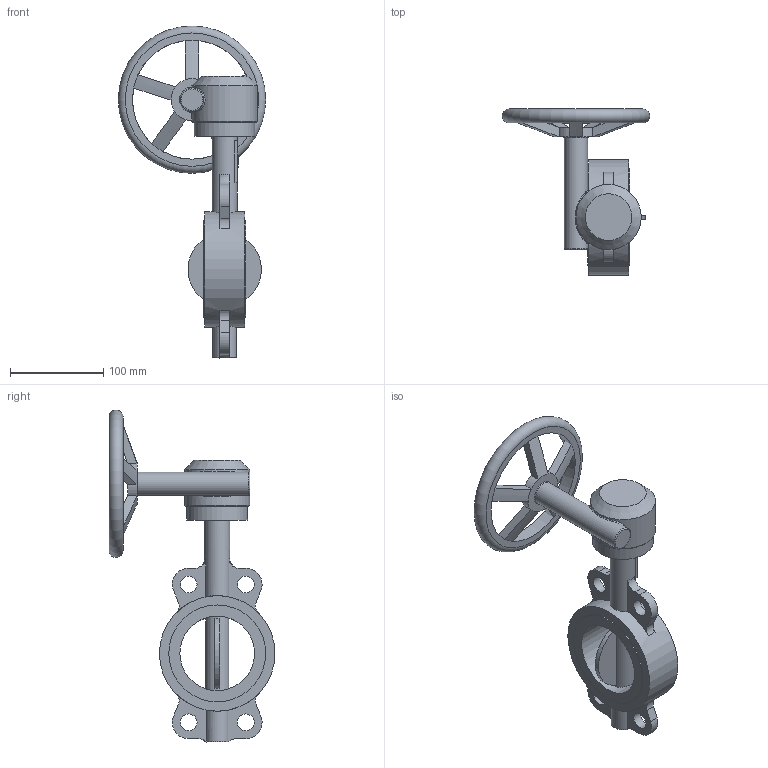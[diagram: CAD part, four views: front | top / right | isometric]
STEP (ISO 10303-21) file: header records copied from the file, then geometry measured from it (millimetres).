
FILE_DESCRIPTION(('STEP AP203'), '1');
FILE_NAME('青蜮铕 017W.Y_DN80_疱潴牝铕', '', ('UNSPECIFIED'), ('UNSPECIFIED'), 'ASCON STEP Converter 1.6', 'ASCON Math Kernel', '');
FILE_SCHEMA(('CONFIG_CONTROL_DESIGN'));
Length unit declared in the file: millimetre
Bounding box: 158 x 177.95 x 356 mm (x, y, z)
Volume: 875261.3 mm3; surface area: 140391.4 mm2
Topology: 1 solids, 1 shells, 139 faces, 344 edges, 216 vertices
Faces by surface type: plane 64, cylinder 46, cone 19, torus 8, bspline 2
Full cylindrical faces by diameter (mm): 6.647 x4, 8 x4, 18 x4, 25 x2, 27 x1, 65 x1, 70 x1, 80 x1, 103.9 x2, 123.9 x1, 127.563 x1
Entity records: 6990 total; most frequent: CARTESIAN_POINT 2646, DIRECTION 680, ORIENTED_EDGE 606, EDGE_CURVE 303, AXIS2_PLACEMENT_3D 283, VERTEX_POINT 212, EDGE_LOOP 207, CIRCLE 145
